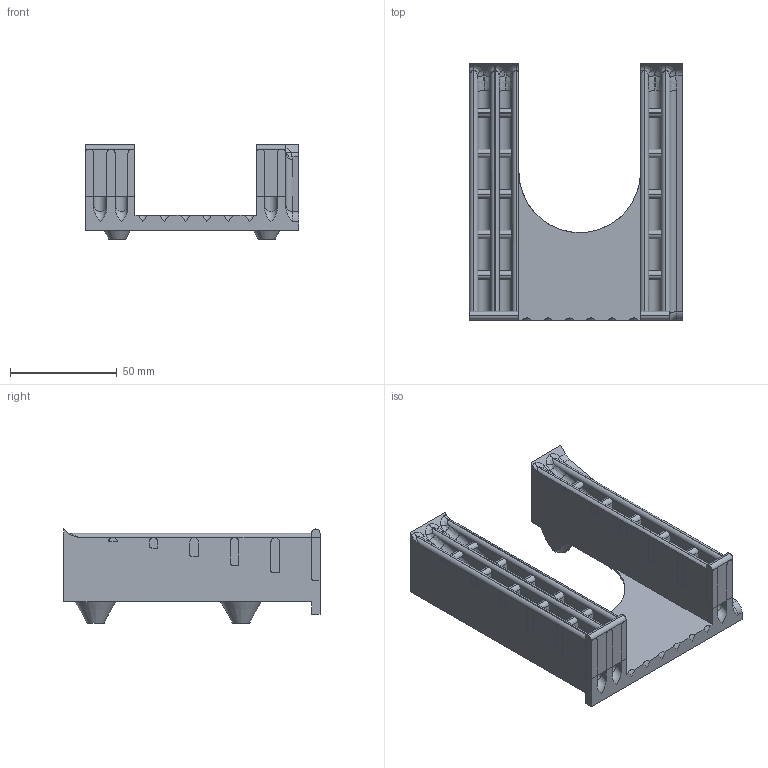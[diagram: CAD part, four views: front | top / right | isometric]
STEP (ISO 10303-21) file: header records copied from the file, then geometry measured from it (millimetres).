
FILE_DESCRIPTION(/* description */ ('STEP AP242','CAx-IF Rec.Pracs.---Representation and Presentation of Product Manufacturing Information (PMI)---4.0---2014-10-13','CAx-IF Rec.Pracs.---3D Tessellated Geometry---0.4---2014-09-14','2;1'),/* implementation_level */ '2;1');
FILE_NAME(/* name */ '66c9b438ffaa4d41a46b338c',/* time_stamp */ '2024-08-24T10:21:45Z',/* author */ (''),/* organization */ (''),/* preprocessor_version */ 'ST-DEVELOPER v20',/* originating_system */ ' ',/* authorisation */ ' ');
FILE_SCHEMA (('AP242_MANAGED_MODEL_BASED_3D_ENGINEERING_MIM_LF { 1 0 10303 442 1 1 4 }'));
Length unit declared in the file: metre
Products named in the file (15): Part 10; Part 14; Part 12; Part 8; Part 6; Part 4; Part 2; Part 11; Part 9; Part 7; Part 5; Part 3; Part 15; Part 13; Part 1
Bounding box: 100 x 120 x 44.07 mm (x, y, z)
Volume: 141391.5 mm3; surface area: 52673.3 mm2
Topology: 15 solids, 15 shells, 211 faces, 514 edges, 335 vertices
Faces by surface type: plane 108, cylinder 65, bspline 24, torus 10, cone 4
Entity records: 6815 total; most frequent: CARTESIAN_POINT 1540, DIRECTION 1043, ORIENTED_EDGE 1012, EDGE_CURVE 506, AXIS2_PLACEMENT_3D 381, VERTEX_POINT 331, LINE 281, VECTOR 281
